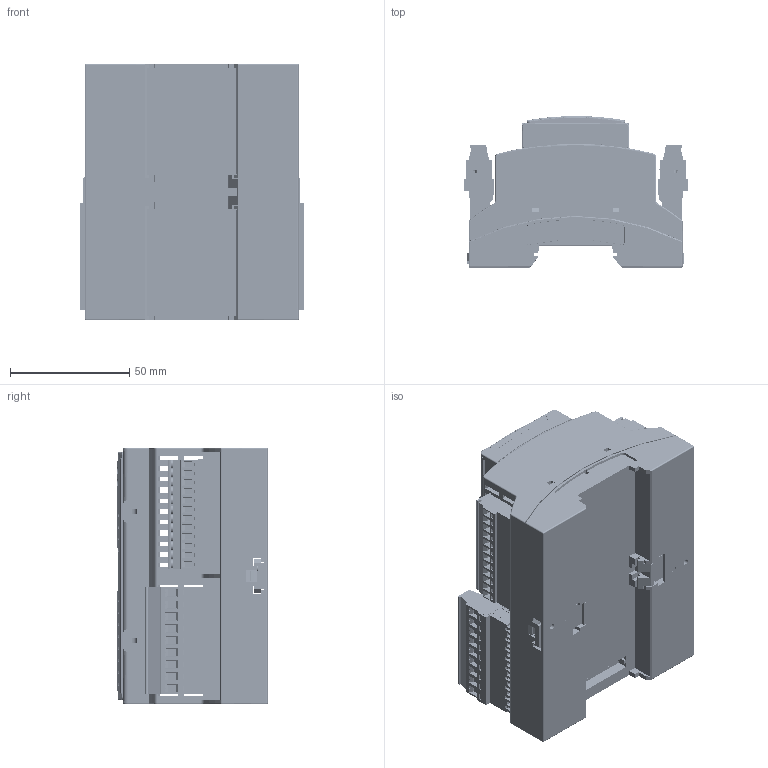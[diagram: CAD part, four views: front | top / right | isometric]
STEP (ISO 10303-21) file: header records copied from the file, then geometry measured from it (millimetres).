
FILE_DESCRIPTION(/* description */ ('SolidDesigner STEP Export'),/* implementation_level */ '2;1');
FILE_NAME(/* name */ 'MCM260X-9AD_web.stp',/* time_stamp */ '2026-02-12T14:42:53+01:00',/* author */ ('ut3'),/* organization */ (''),/* preprocessor_version */ 'ST-DEVELOPER v20',/* originating_system */ 'Autodesk Inventor 2025',/* authorisation */ '');
FILE_SCHEMA (('AUTOMOTIVE_DESIGN { 1 0 10303 214 3 1 1 }'));
Products named in the file (140): MCM260X-9AD; BC_107.6_GEH-OT_U11_H.Select__00384612; 2896270 Base 6M; BC_107.6_GEH-UT_HBUS__H.Select__00383663; Fussriegel_14.4_L30_Sperr_H.Select__00370451; 1300.20.405_v1; PCB_TST; MCM260X-9AD_3D_Contorno; SHR-04V-S-B; ANTENNA 4.7uH; CSDQ-S35404V-21; PLS7/SMD; CHIPLEDV2MA; CHIPLEDG2MA; CHIPLEDR2MA; 220pF/S2; STM32F030K6; 47uF 35V/S 105°; LD1117DT33; 470nF/S2; 100NF/S2; 0R/S4; M24LR64E-RDW6T/S; 470R/S4 1%; 47R/S4 1%; 2.2uF/S; 100NF/S4; 10K0/S4 1%; 22UF 6.3V/S 105°; 74HC138/S; BC807; 240R/S4 1%; 10K/S2; PCB_CPU; MCM260X-9AD_CPU_3D_Contorno; 4x2STRIPVF-p2-H4.5/S; B360A; IND 22UH 0.45A/S; LD1117DT33_1; 44K2/S2 1%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
Assembly tree (589 placements, depth 3):
  MCM260X-9AD
    BC_107.6_GEH-OT_U11_H.Select__00384612
    2896270 Base 6M
      BC_107.6_GEH-UT_HBUS__H.Select__00383663
      Fussriegel_14.4_L30_Sperr_H.Select__00370451  x2
    1300.20.405_v1
    PCB_TST
      MCM260X-9AD_3D_Contorno
      CHIPLEDR2MA  x24
      SHR-04V-S-B
      100NF/S4  x4
      2.2uF/S  x2
      240R/S4 1%  x9
      ANTENNA 4.7uH
      CSDQ-S35404V-21
      PLS7/SMD  x3
      CHIPLEDV2MA
      CHIPLEDG2MA
      470R/S4 1%  x9
      220pF/S2
      STM32F030K6
      47uF 35V/S 105°
      LD1117DT33
      470nF/S2
      100NF/S2
      0R/S4
      M24LR64E-RDW6T/S
      47R/S4 1%  x2
      10K0/S4 1%  x3
      BC807  x7
      10K/S2  x7
      22UF 6.3V/S 105°
      74HC138/S
    PCB_CPU
      MCM260X-9AD_CPU_3D_Contorno
      4x2STRIPVF-p2-H4.5/S
      B360A
      M74HC4094TTR  x3
      TL431/S2  x3
      10UF 50V/S 105  x3
      RB160M-60  x24
      IND 22UH 0.45A/S
      10uF 16V/S  x8
      LD1117DT33_1
      IND 18uH 0.7A/S  x3
      44K2/S2 1%
      4K7/S4 1%  x5
      VN808CM  x2
      STARPOINT 3 PINS  x2
      P6SMB28CA  x20
      ESDCAN03-2BW
      100NF/S2_1  x7
      SMBJ33CA-39
      1UF/S4 35V  x2
      3K3/S2 1%  x3
      PTC 70mA/S  x2
      100uF 16V/S 105°  x3
      4M7/S2 1%  x4
      220uF 50V/S 105°
      1uF/S 50V  x3
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Bounding box: 93.99 x 63.39 x 107.6 mm (x, y, z)
Volume: 153346.8 mm3; surface area: 185532.2 mm2
Topology: 586 solids, 586 shells, 11477 faces, 28484 edges, 18650 vertices
Faces by surface type: plane 9360, cylinder 1753, cone 163, bspline 76, torus 69, sphere 56
Full cylindrical faces by diameter (mm): 0.305 x435, 0.406 x219, 0.508 x59, 0.61 x3, 0.711 x8, 0.813 x7, 1 x18, 1.2 x24, 1.397 x24, 1.4 x2, 1.5 x2, 1.588 x16, 1.778 x18, 1.8 x24, 2 x10, 2.4 x6, 2.6 x18, 2.829 x18, 3 x50, 3.474 x2, 3.8 x19, 3.97 x18, 4.064 x12, 4.826 x1, 5 x3
Entity records: 220328 total; most frequent: CARTESIAN_POINT 46147, ORIENTED_EDGE 33906, DIRECTION 33716, EDGE_CURVE 16953, LINE 13780, VECTOR 13780, VERTEX_POINT 11127, AXIS2_PLACEMENT_3D 9968
